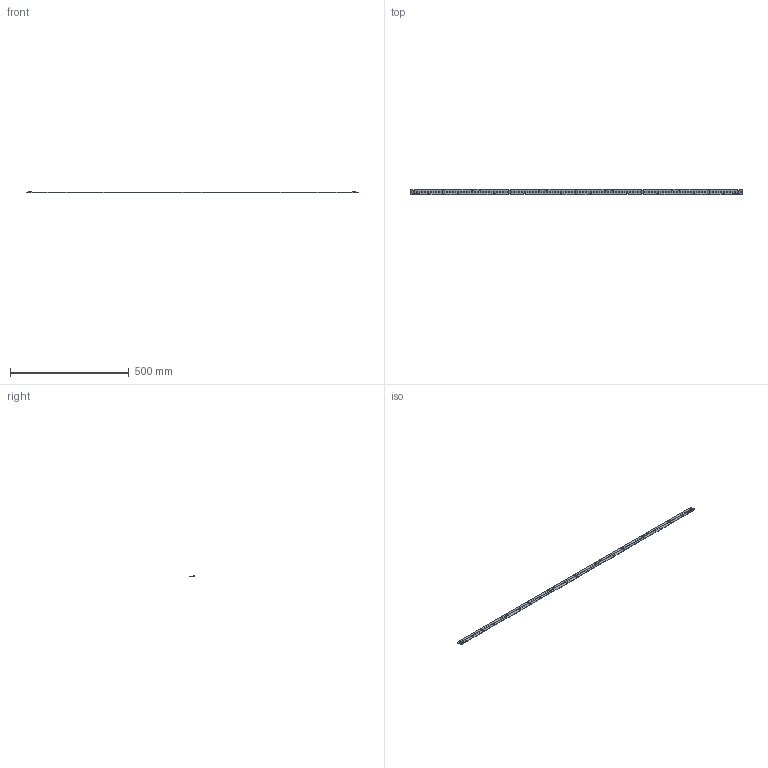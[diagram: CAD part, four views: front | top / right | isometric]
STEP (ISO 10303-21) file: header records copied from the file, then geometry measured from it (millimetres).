
FILE_DESCRIPTION((''),'2;1');
FILE_NAME('16208846_LLE-G5-5FT-HV-6000LM','2019-06-18T15:45:30',('bernhard.fink'),(''),'CREO PARAMETRIC BY PTC INC, 2017380','CREO PARAMETRIC BY PTC INC, 2017380','');
FILE_SCHEMA(('AUTOMOTIVE_DESIGN { 1 0 10303 214 1 1 1 1 }'));
Products named in the file (1): 16208846_LLE-G5-5FT-HV-6000LM
Bounding box: 1399 x 23.6 x 5.1 mm (x, y, z)
Volume: 53334.3 mm3; surface area: 72605.1 mm2
Topology: 121 solids, 123 shells, 1518 faces, 3610 edges, 2334 vertices
Faces by surface type: plane 1047, cylinder 288, bspline 119, cone 34, torus 18, sphere 12
Entity records: 69220 total; most frequent: CARTESIAN_POINT 13972, ORIENTED_EDGE 7164, DIRECTION 6431, PRESENTATION_STYLE_ASSIGNMENT 5020, STYLED_ITEM 3717, CURVE_STYLE 3594, EDGE_CURVE 3594, VECTOR 2643
